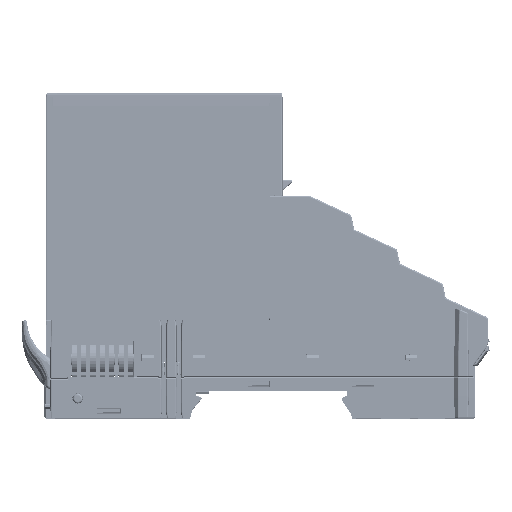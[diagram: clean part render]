
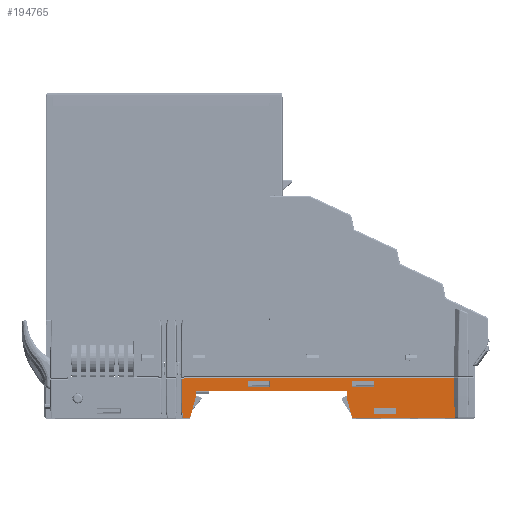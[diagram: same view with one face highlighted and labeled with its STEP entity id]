
A CAD part, top view. The second image highlights one B-rep face of the part: STEP entity #194765.
In plain terms, the highlighted planar face has unit normal (0, 0, 1).
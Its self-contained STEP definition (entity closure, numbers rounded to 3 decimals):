
#6835=DIRECTION('',(0.164,-0.986,0.));
#6836=VECTOR('',#6835,1.546);
#6837=CARTESIAN_POINT('',(-15.05,-11.498,7.15));
#6838=LINE('',#6837,#6836);
#6839=DIRECTION('',(-1.,0.,0.));
#6840=VECTOR('',#6839,0.513);
#6841=CARTESIAN_POINT('',(-14.537,-3.792,7.15));
#6842=LINE('',#6841,#6840);
#6843=DIRECTION('',(-1.,0.,0.));
#6844=VECTOR('',#6843,63.087);
#6845=CARTESIAN_POINT('',(48.55,-3.526,7.15));
#6846=LINE('',#6845,#6844);
#6847=DIRECTION('',(-1.,0.,0.));
#6848=VECTOR('',#6847,24.376);
#6849=CARTESIAN_POINT('',(49.083,-13.023,7.15));
#6850=LINE('',#6849,#6848);
#6851=DIRECTION('',(0.259,-0.966,0.));
#6852=VECTOR('',#6851,5.142);
#6853=CARTESIAN_POINT('',(23.376,-8.056,7.15));
#6854=LINE('',#6853,#6852);
#6855=DIRECTION('',(0.017,-1.,0.));
#6856=VECTOR('',#6855,1.483);
#6857=CARTESIAN_POINT('',(23.35,-6.573,7.15));
#6858=LINE('',#6857,#6856);
#6859=DIRECTION('',(-0.017,-1.,0.));
#6860=VECTOR('',#6859,1.504);
#6861=CARTESIAN_POINT('',(-11.9,-6.573,7.15));
#6862=LINE('',#6861,#6860);
#6863=DIRECTION('',(-0.259,-0.966,0.));
#6864=VECTOR('',#6863,5.12);
#6865=CARTESIAN_POINT('',(-11.926,-8.077,7.15));
#6866=LINE('',#6865,#6864);
#6867=DIRECTION('',(-1.,0.,0.));
#6868=VECTOR('',#6867,1.544);
#6869=CARTESIAN_POINT('',(-13.251,-13.023,7.15));
#6870=LINE('',#6869,#6868);
#6871=DIRECTION('',(0.,-1.,0.));
#6872=VECTOR('',#6871,1.2);
#6873=CARTESIAN_POINT('',(29.752,-10.671,7.15));
#6874=LINE('',#6873,#6872);
#6875=DIRECTION('',(1.,0.,0.));
#6876=VECTOR('',#6875,5.105);
#6877=CARTESIAN_POINT('',(29.752,-11.871,7.15));
#6878=LINE('',#6877,#6876);
#6879=DIRECTION('',(0.,1.,0.));
#6880=VECTOR('',#6879,1.2);
#6881=CARTESIAN_POINT('',(34.857,-11.871,7.15));
#6882=LINE('',#6881,#6880);
#6883=DIRECTION('',(-1.,0.,0.));
#6884=VECTOR('',#6883,5.105);
#6885=CARTESIAN_POINT('',(34.857,-10.671,7.15));
#6886=LINE('',#6885,#6884);
#6887=DIRECTION('',(0.,-1.,0.));
#6888=VECTOR('',#6887,1.305);
#6889=CARTESIAN_POINT('',(24.648,-4.271,7.15));
#6890=LINE('',#6889,#6888);
#6891=DIRECTION('',(1.,0.,0.));
#6892=VECTOR('',#6891,5.105);
#6893=CARTESIAN_POINT('',(24.648,-5.575,7.15));
#6894=LINE('',#6893,#6892);
#6895=DIRECTION('',(0.,1.,0.));
#6896=VECTOR('',#6895,1.305);
#6897=CARTESIAN_POINT('',(29.752,-5.575,7.15));
#6898=LINE('',#6897,#6896);
#6899=DIRECTION('',(-1.,0.,0.));
#6900=VECTOR('',#6899,5.105);
#6901=CARTESIAN_POINT('',(29.752,-4.271,7.15));
#6902=LINE('',#6901,#6900);
#6903=DIRECTION('',(0.,-1.,0.));
#6904=VECTOR('',#6903,1.305);
#6905=CARTESIAN_POINT('',(0.248,-4.271,7.15));
#6906=LINE('',#6905,#6904);
#6907=DIRECTION('',(1.,0.,0.));
#6908=VECTOR('',#6907,5.105);
#6909=CARTESIAN_POINT('',(0.248,-5.575,7.15));
#6910=LINE('',#6909,#6908);
#6911=DIRECTION('',(0.,1.,0.));
#6912=VECTOR('',#6911,1.305);
#6913=CARTESIAN_POINT('',(5.352,-5.575,7.15));
#6914=LINE('',#6913,#6912);
#6915=DIRECTION('',(-1.,0.,0.));
#6916=VECTOR('',#6915,5.105);
#6917=CARTESIAN_POINT('',(5.352,-4.271,7.15));
#6918=LINE('',#6917,#6916);
#7065=CARTESIAN_POINT('',(-14.796,-13.023,7.15));
#43714=DIRECTION('',(1.,0.,0.));
#43715=VECTOR('',#43714,35.25);
#43716=CARTESIAN_POINT('',(-11.9,-6.573,7.15));
#43717=LINE('',#43716,#43715);
#44511=CARTESIAN_POINT('',(49.083,-13.023,7.15));
#44512=CARTESIAN_POINT('',(49.024,-13.023,7.15));
#44513=CARTESIAN_POINT('',(48.921,-13.007,7.15));
#44514=CARTESIAN_POINT('',(48.796,-12.952,7.15));
#44515=CARTESIAN_POINT('',(48.716,-12.882,7.15));
#44516=CARTESIAN_POINT('',(48.672,-12.806,7.15));
#44517=CARTESIAN_POINT('',(48.659,-12.758,7.15));
#44518=CARTESIAN_POINT('',(48.659,-12.728,7.15));
#44528=DIRECTION('',(-0.025,1.,0.));
#44529=VECTOR('',#44528,4.407);
#44530=CARTESIAN_POINT('',(48.659,-12.728,7.15));
#44531=LINE('',#44530,#44529);
#44967=DIRECTION('',(0.,-1.,0.));
#44968=VECTOR('',#44967,0.265);
#44969=CARTESIAN_POINT('',(-14.537,-3.526,7.15));
#44970=LINE('',#44969,#44968);
#45014=CARTESIAN_POINT('',(-15.05,-3.792,7.15));
#45021=DIRECTION('',(0.,-1.,0.));
#45022=VECTOR('',#45021,7.706);
#45023=CARTESIAN_POINT('',(-15.05,-3.792,7.15));
#45024=LINE('',#45023,#45022);
#127402=DIRECTION('',(0.,1.,0.));
#127403=VECTOR('',#127402,4.796);
#127404=CARTESIAN_POINT('',(48.55,-8.323,7.15));
#127405=LINE('',#127404,#127403);
#147418=CARTESIAN_POINT('',(23.35,-6.573,7.15));
#147419=CARTESIAN_POINT('',(23.376,-8.056,7.15));
#147420=VERTEX_POINT('',#147418);
#147421=VERTEX_POINT('',#147419);
#147422=CARTESIAN_POINT('',(24.707,-13.023,7.15));
#147423=VERTEX_POINT('',#147422);
#147444=CARTESIAN_POINT('',(48.659,-12.728,7.15));
#147445=CARTESIAN_POINT('',(48.55,-8.323,7.15));
#147446=VERTEX_POINT('',#147444);
#147447=VERTEX_POINT('',#147445);
#147448=VERTEX_POINT('',#44511);
#147841=CARTESIAN_POINT('',(0.248,-5.575,7.15));
#147842=CARTESIAN_POINT('',(5.352,-5.575,7.15));
#147843=VERTEX_POINT('',#147841);
#147844=VERTEX_POINT('',#147842);
#147862=CARTESIAN_POINT('',(24.648,-5.575,7.15));
#147863=CARTESIAN_POINT('',(29.752,-5.575,7.15));
#147864=VERTEX_POINT('',#147862);
#147865=VERTEX_POINT('',#147863);
#147878=CARTESIAN_POINT('',(24.648,-4.271,7.15));
#147879=VERTEX_POINT('',#147878);
#147880=CARTESIAN_POINT('',(29.752,-4.271,7.15));
#147881=VERTEX_POINT('',#147880);
#147882=CARTESIAN_POINT('',(0.248,-4.271,7.15));
#147883=VERTEX_POINT('',#147882);
#147884=CARTESIAN_POINT('',(5.352,-4.271,7.15));
#147885=VERTEX_POINT('',#147884);
#150638=CARTESIAN_POINT('',(29.752,-10.671,7.15));
#150639=CARTESIAN_POINT('',(29.752,-11.871,7.15));
#150640=VERTEX_POINT('',#150638);
#150641=VERTEX_POINT('',#150639);
#150646=CARTESIAN_POINT('',(34.857,-11.871,7.15));
#150647=VERTEX_POINT('',#150646);
#150648=CARTESIAN_POINT('',(34.857,-10.671,7.15));
#150649=VERTEX_POINT('',#150648);
#151689=CARTESIAN_POINT('',(-11.9,-6.573,7.15));
#151690=VERTEX_POINT('',#151689);
#151710=CARTESIAN_POINT('',(-13.251,-13.023,7.15));
#151712=VERTEX_POINT('',#151710);
#151713=CARTESIAN_POINT('',(-11.926,-8.077,7.15));
#151714=VERTEX_POINT('',#151713);
#152006=CARTESIAN_POINT('',(-14.537,-3.526,7.15));
#152008=VERTEX_POINT('',#152006);
#152012=CARTESIAN_POINT('',(48.55,-3.526,7.15));
#152013=VERTEX_POINT('',#152012);
#152072=VERTEX_POINT('',#45014);
#152080=CARTESIAN_POINT('',(-14.537,-3.792,7.15));
#152081=VERTEX_POINT('',#152080);
#152826=VERTEX_POINT('',#7065);
#152830=CARTESIAN_POINT('',(-15.05,-11.498,7.15));
#152831=VERTEX_POINT('',#152830);
#194702=CARTESIAN_POINT('',(0.,0.,7.15));
#194703=DIRECTION('',(0.,0.,-1.));
#194704=DIRECTION('',(-1.,0.,0.));
#194705=AXIS2_PLACEMENT_3D('',#194702,#194703,#194704);
#194706=PLANE('',#194705);
#194708=ORIENTED_EDGE('',*,*,#194707,.F.);
#194710=ORIENTED_EDGE('',*,*,#194709,.F.);
#194712=ORIENTED_EDGE('',*,*,#194711,.F.);
#194714=ORIENTED_EDGE('',*,*,#194713,.F.);
#194716=ORIENTED_EDGE('',*,*,#194715,.F.);
#194718=ORIENTED_EDGE('',*,*,#194717,.F.);
#194720=ORIENTED_EDGE('',*,*,#194719,.F.);
#194722=ORIENTED_EDGE('',*,*,#194721,.F.);
#194724=ORIENTED_EDGE('',*,*,#194723,.T.);
#194726=ORIENTED_EDGE('',*,*,#194725,.F.);
#194728=ORIENTED_EDGE('',*,*,#194727,.F.);
#194730=ORIENTED_EDGE('',*,*,#194729,.F.);
#194732=ORIENTED_EDGE('',*,*,#194731,.T.);
#194734=ORIENTED_EDGE('',*,*,#194733,.T.);
#194736=ORIENTED_EDGE('',*,*,#194735,.T.);
#194737=EDGE_LOOP('',(#194708,#194710,#194712,#194714,#194716,#194718,#194720,
#194722,#194724,#194726,#194728,#194730,#194732,#194734,#194736));
#194738=FACE_OUTER_BOUND('',#194737,.F.);
#194740=ORIENTED_EDGE('',*,*,#194739,.T.);
#194742=ORIENTED_EDGE('',*,*,#194741,.T.);
#194744=ORIENTED_EDGE('',*,*,#194743,.T.);
#194746=ORIENTED_EDGE('',*,*,#194745,.T.);
#194747=EDGE_LOOP('',(#194740,#194742,#194744,#194746));
#194748=FACE_BOUND('',#194747,.F.);
#194749=ORIENTED_EDGE('',*,*,#194572,.T.);
#194750=ORIENTED_EDGE('',*,*,#194690,.T.);
#194751=ORIENTED_EDGE('',*,*,#194527,.T.);
#194752=ORIENTED_EDGE('',*,*,#194549,.T.);
#194753=EDGE_LOOP('',(#194749,#194750,#194751,#194752));
#194754=FACE_BOUND('',#194753,.F.);
#194756=ORIENTED_EDGE('',*,*,#194755,.T.);
#194758=ORIENTED_EDGE('',*,*,#194757,.T.);
#194760=ORIENTED_EDGE('',*,*,#194759,.T.);
#194762=ORIENTED_EDGE('',*,*,#194761,.T.);
#194763=EDGE_LOOP('',(#194756,#194758,#194760,#194762));
#194764=FACE_BOUND('',#194763,.F.);
#194765=ADVANCED_FACE('',(#194738,#194748,#194754,#194764),#194706,.F.);
#44519=B_SPLINE_CURVE_WITH_KNOTS('',3,(#44511,#44512,#44513,#44514,#44515,
#44516,#44517,#44518),.UNSPECIFIED.,.F.,.F.,(4,1,1,1,1,4),(0.,0.25,0.5,
0.75,0.875,1.),.UNSPECIFIED.);
#194527=EDGE_CURVE('',#147865,#147881,#6898,.T.);
#194549=EDGE_CURVE('',#147881,#147879,#6902,.T.);
#194572=EDGE_CURVE('',#147879,#147864,#6890,.T.);
#194690=EDGE_CURVE('',#147864,#147865,#6894,.T.);
#194707=EDGE_CURVE('',#152831,#152826,#6838,.T.);
#194709=EDGE_CURVE('',#152072,#152831,#45024,.T.);
#194711=EDGE_CURVE('',#152081,#152072,#6842,.T.);
#194713=EDGE_CURVE('',#152008,#152081,#44970,.T.);
#194715=EDGE_CURVE('',#152013,#152008,#6846,.T.);
#194717=EDGE_CURVE('',#147447,#152013,#127405,.T.);
#194719=EDGE_CURVE('',#147446,#147447,#44531,.T.);
#194721=EDGE_CURVE('',#147448,#147446,#44519,.T.);
#194723=EDGE_CURVE('',#147448,#147423,#6850,.T.);
#194725=EDGE_CURVE('',#147421,#147423,#6854,.T.);
#194727=EDGE_CURVE('',#147420,#147421,#6858,.T.);
#194729=EDGE_CURVE('',#151690,#147420,#43717,.T.);
#194731=EDGE_CURVE('',#151690,#151714,#6862,.T.);
#194733=EDGE_CURVE('',#151714,#151712,#6866,.T.);
#194735=EDGE_CURVE('',#151712,#152826,#6870,.T.);
#194739=EDGE_CURVE('',#150640,#150641,#6874,.T.);
#194741=EDGE_CURVE('',#150641,#150647,#6878,.T.);
#194743=EDGE_CURVE('',#150647,#150649,#6882,.T.);
#194745=EDGE_CURVE('',#150649,#150640,#6886,.T.);
#194755=EDGE_CURVE('',#147883,#147843,#6906,.T.);
#194757=EDGE_CURVE('',#147843,#147844,#6910,.T.);
#194759=EDGE_CURVE('',#147844,#147885,#6914,.T.);
#194761=EDGE_CURVE('',#147885,#147883,#6918,.T.);
